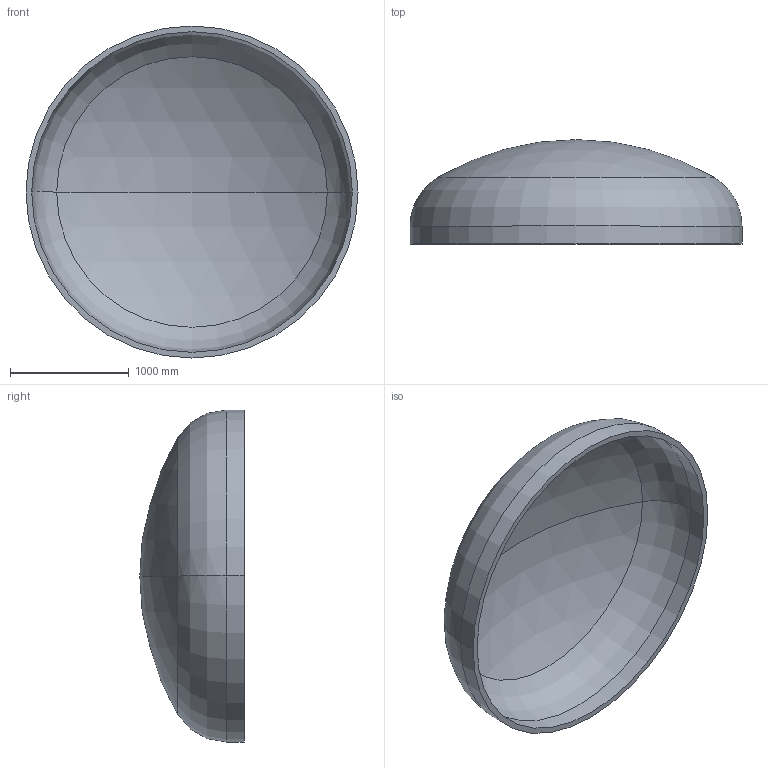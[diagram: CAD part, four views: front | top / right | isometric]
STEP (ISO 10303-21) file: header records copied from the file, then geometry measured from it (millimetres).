
FILE_DESCRIPTION (( 'STEP AP203' ), '1' );
FILE_NAME ('DIN 28013 Korbbogenform_-_Boden DIN 28013 - 2800 x 150 - I - s=48.step', '2016-07-01T17:02:32', ( '' ), ( '' ), 'SwSTEP 2.0', 'SolidWorks 2013', '' );
FILE_SCHEMA (( 'CONFIG_CONTROL_DESIGN' ));
Length unit declared in the file: millimetre
Products named in the file (1): DIN 28013 Korbbogenform_-_Boden DIN 28013 - 2800 x 150 - I - s=48
Bounding box: 2800 x 880.43 x 2800 mm (x, y, z)
Volume: 462224155.9 mm3; surface area: 19679150.7 mm2
Topology: 1 solids, 1 shells, 13 faces, 24 edges, 14 vertices
Faces by surface type: torus 4, cylinder 4, sphere 4, plane 1
Entity records: 407 total; most frequent: DIRECTION 72, CARTESIAN_POINT 52, ORIENTED_EDGE 48, AXIS2_PLACEMENT_3D 34, EDGE_CURVE 24, CIRCLE 20, EDGE_LOOP 14, VERTEX_POINT 14
